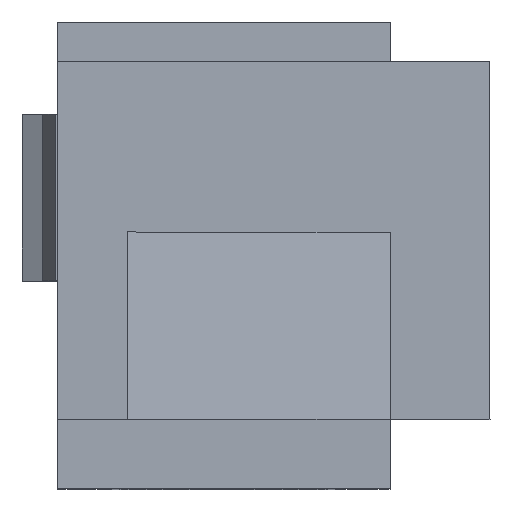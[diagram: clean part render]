
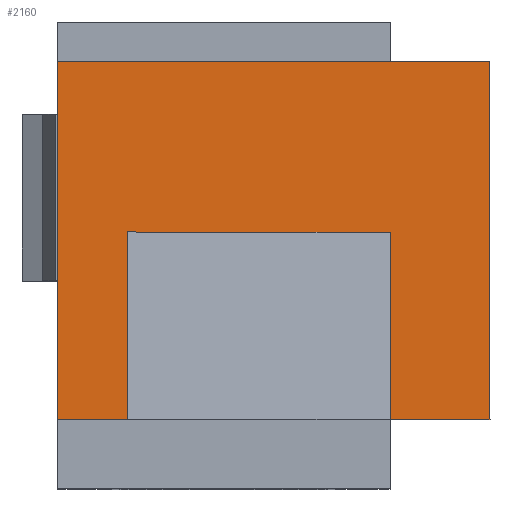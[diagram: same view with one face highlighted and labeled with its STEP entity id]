
A CAD part, top view. The second image highlights one B-rep face of the part: STEP entity #2160.
In plain terms, the highlighted planar face has unit normal (0, 0, 1).
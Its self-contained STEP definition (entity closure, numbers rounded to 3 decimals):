
#2 = DIRECTION ( 'NONE',  ( -1., 0., 0. ) ) ;
#7 = DIRECTION ( 'NONE',  ( -1., 0., 0. ) ) ;
#83 = LINE ( 'NONE', #978, #794 ) ;
#212 = LINE ( 'NONE', #2171, #693 ) ;
#307 = VECTOR ( 'NONE', #7, 1000. ) ;
#326 = CARTESIAN_POINT ( 'NONE',  ( 20.7, -25.242, -15.592 ) ) ;
#344 = ORIENTED_EDGE ( 'NONE', *, *, #1342, .F. ) ;
#401 = CARTESIAN_POINT ( 'NONE',  ( 28.7, -25.242, -15.592 ) ) ;
#526 = LINE ( 'NONE', #1870, #1987 ) ;
#552 = CARTESIAN_POINT ( 'NONE',  ( 26.959, -25.242, -15.592 ) ) ;
#556 = ORIENTED_EDGE ( 'NONE', *, *, #2402, .T. ) ;
#583 = VERTEX_POINT ( 'NONE', #1340 ) ;
#693 = VECTOR ( 'NONE', #2, 1000. ) ;
#734 = VERTEX_POINT ( 'NONE', #552 ) ;
#794 = VECTOR ( 'NONE', #1855, 1000. ) ;
#819 = DIRECTION ( 'NONE',  ( 0., -1., 0. ) ) ;
#820 = CARTESIAN_POINT ( 'NONE',  ( 31.1, -25.242, -15.592 ) ) ;
#897 = DIRECTION ( 'NONE',  ( 0., 1., 0. ) ) ;
#929 = EDGE_CURVE ( 'NONE', #583, #1397, #1337, .T. ) ;
#951 = ORIENTED_EDGE ( 'NONE', *, *, #1874, .T. ) ;
#978 = CARTESIAN_POINT ( 'NONE',  ( 28.7, -20.742, -15.592 ) ) ;
#979 = VECTOR ( 'NONE', #1852, 1000. ) ;
#991 = CARTESIAN_POINT ( 'NONE',  ( 20.7, -16.642, -15.593 ) ) ;
#1106 = EDGE_CURVE ( 'NONE', #1397, #734, #1926, .T. ) ;
#1255 = EDGE_CURVE ( 'NONE', #2310, #1285, #1301, .T. ) ;
#1273 = CARTESIAN_POINT ( 'NONE',  ( 26.959, -20.742, -15.592 ) ) ;
#1285 = VERTEX_POINT ( 'NONE', #401 ) ;
#1296 = EDGE_LOOP ( 'NONE', ( #1669, #1693, #556, #951, #1738, #344, #2612, #2560 ) ) ;
#1301 = LINE ( 'NONE', #2649, #2619 ) ;
#1337 = LINE ( 'NONE', #2008, #307 ) ;
#1340 = CARTESIAN_POINT ( 'NONE',  ( 28.7, -20.742, -15.592 ) ) ;
#1342 = EDGE_CURVE ( 'NONE', #734, #2693, #212, .T. ) ;
#1397 = VERTEX_POINT ( 'NONE', #2730 ) ;
#1669 = ORIENTED_EDGE ( 'NONE', *, *, #2312, .T. ) ;
#1693 = ORIENTED_EDGE ( 'NONE', *, *, #1255, .F. ) ;
#1715 = LINE ( 'NONE', #820, #1766 ) ;
#1738 = ORIENTED_EDGE ( 'NONE', *, *, #2722, .T. ) ;
#1763 = PLANE ( 'NONE',  #2214 ) ;
#1766 = VECTOR ( 'NONE', #2140, 1000. ) ;
#1787 = VERTEX_POINT ( 'NONE', #2464 ) ;
#1815 = FACE_OUTER_BOUND ( 'NONE', #1296, .T. ) ;
#1852 = DIRECTION ( 'NONE',  ( 0., -1., 0. ) ) ;
#1855 = DIRECTION ( 'NONE',  ( 0., -1., 0. ) ) ;
#1870 = CARTESIAN_POINT ( 'NONE',  ( 39.017, -16.642, -15.593 ) ) ;
#1874 = EDGE_CURVE ( 'NONE', #1787, #2773, #526, .T. ) ;
#1926 = LINE ( 'NONE', #1273, #2661 ) ;
#1970 = DIRECTION ( 'NONE',  ( -1., 0., 0. ) ) ;
#1987 = VECTOR ( 'NONE', #2707, 1000. ) ;
#2008 = CARTESIAN_POINT ( 'NONE',  ( 26.959, -20.742, -15.592 ) ) ;
#2140 = DIRECTION ( 'NONE',  ( 0., 1., 0. ) ) ;
#2160 = ADVANCED_FACE ( 'NONE', ( #1815 ), #1763, .T. ) ;
#2171 = CARTESIAN_POINT ( 'NONE',  ( 39.017, -25.242, -15.592 ) ) ;
#2187 = CARTESIAN_POINT ( 'NONE',  ( 39.017, -16.642, -15.593 ) ) ;
#2214 = AXIS2_PLACEMENT_3D ( 'NONE', #2187, #2235, #897 ) ;
#2235 = DIRECTION ( 'NONE',  ( 0., 0., 1. ) ) ;
#2310 = VERTEX_POINT ( 'NONE', #2491 ) ;
#2312 = EDGE_CURVE ( 'NONE', #583, #1285, #83, .T. ) ;
#2402 = EDGE_CURVE ( 'NONE', #2310, #1787, #1715, .T. ) ;
#2464 = CARTESIAN_POINT ( 'NONE',  ( 31.1, -16.642, -15.593 ) ) ;
#2491 = CARTESIAN_POINT ( 'NONE',  ( 31.1, -25.242, -15.592 ) ) ;
#2501 = CARTESIAN_POINT ( 'NONE',  ( 20.7, -16.642, -15.593 ) ) ;
#2560 = ORIENTED_EDGE ( 'NONE', *, *, #929, .F. ) ;
#2612 = ORIENTED_EDGE ( 'NONE', *, *, #1106, .F. ) ;
#2619 = VECTOR ( 'NONE', #1970, 1000. ) ;
#2649 = CARTESIAN_POINT ( 'NONE',  ( 39.017, -25.242, -15.592 ) ) ;
#2661 = VECTOR ( 'NONE', #819, 1000. ) ;
#2676 = LINE ( 'NONE', #991, #979 ) ;
#2693 = VERTEX_POINT ( 'NONE', #326 ) ;
#2707 = DIRECTION ( 'NONE',  ( -1., 0., 0. ) ) ;
#2722 = EDGE_CURVE ( 'NONE', #2773, #2693, #2676, .T. ) ;
#2730 = CARTESIAN_POINT ( 'NONE',  ( 26.959, -20.742, -15.592 ) ) ;
#2773 = VERTEX_POINT ( 'NONE', #2501 ) ;
